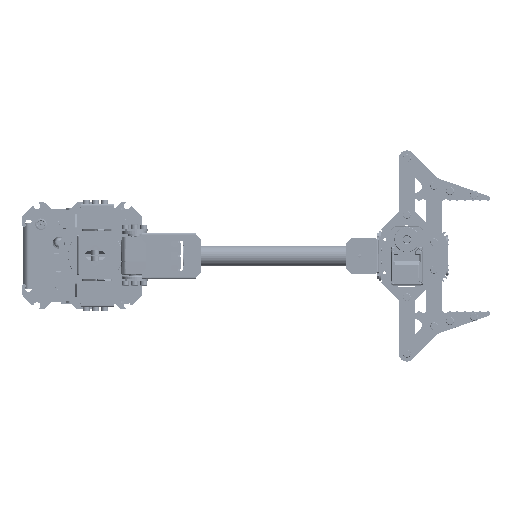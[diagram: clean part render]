
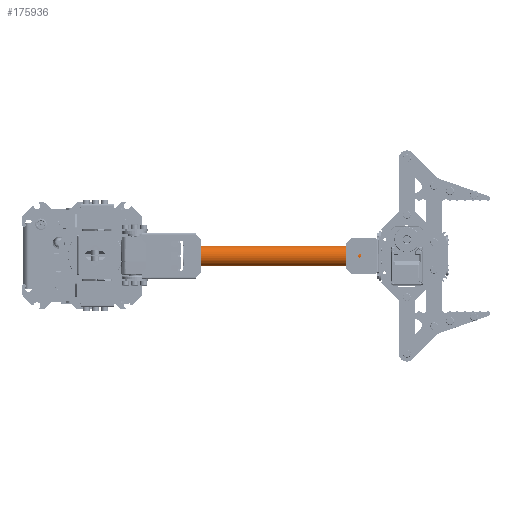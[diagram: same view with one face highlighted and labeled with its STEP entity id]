
A CAD part, top view. The second image highlights one B-rep face of the part: STEP entity #175936.
In plain terms, the highlighted cylindrical face has radius 8 mm (diameter 16 mm), a full revolution.
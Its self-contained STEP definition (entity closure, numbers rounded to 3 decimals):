
#10386=CYLINDRICAL_SURFACE('',#191437,8.);
#19206=FACE_OUTER_BOUND('',#29101,.T.);
#29101=EDGE_LOOP('',(#144949,#144950,#144951,#144952));
#35700=CIRCLE('',#191438,8.);
#35701=CIRCLE('',#191439,8.);
#51747=LINE('',#298137,#68292);
#68292=VECTOR('',#231132,8.);
#82933=VERTEX_POINT('',#298134);
#82934=VERTEX_POINT('',#298136);
#104714=EDGE_CURVE('',#82933,#82933,#35700,.T.);
#104715=EDGE_CURVE('',#82933,#82934,#51747,.T.);
#104716=EDGE_CURVE('',#82934,#82934,#35701,.T.);
#144949=ORIENTED_EDGE('',*,*,#104714,.F.);
#144950=ORIENTED_EDGE('',*,*,#104715,.T.);
#144951=ORIENTED_EDGE('',*,*,#104716,.T.);
#144952=ORIENTED_EDGE('',*,*,#104715,.F.);
#175936=ADVANCED_FACE('',(#19206),#10386,.T.);
#191437=AXIS2_PLACEMENT_3D('',#298133,#231128,#231129);
#191438=AXIS2_PLACEMENT_3D('',#298135,#231130,#231131);
#191439=AXIS2_PLACEMENT_3D('',#298138,#231133,#231134);
#231128=DIRECTION('center_axis',(0.,0.,1.));
#231129=DIRECTION('ref_axis',(1.,0.,0.));
#231130=DIRECTION('center_axis',(0.,0.,1.));
#231131=DIRECTION('ref_axis',(1.,0.,0.));
#231132=DIRECTION('',(0.,0.,-1.));
#231133=DIRECTION('center_axis',(0.,0.,1.));
#231134=DIRECTION('ref_axis',(1.,0.,0.));
#298133=CARTESIAN_POINT('Origin',(0.,-100.,0.));
#298134=CARTESIAN_POINT('',(-8.,-100.,140.));
#298135=CARTESIAN_POINT('Origin',(0.,-100.,140.));
#298136=CARTESIAN_POINT('',(-8.,-100.,0.));
#298137=CARTESIAN_POINT('',(-8.,-100.,0.));
#298138=CARTESIAN_POINT('Origin',(0.,-100.,0.));
